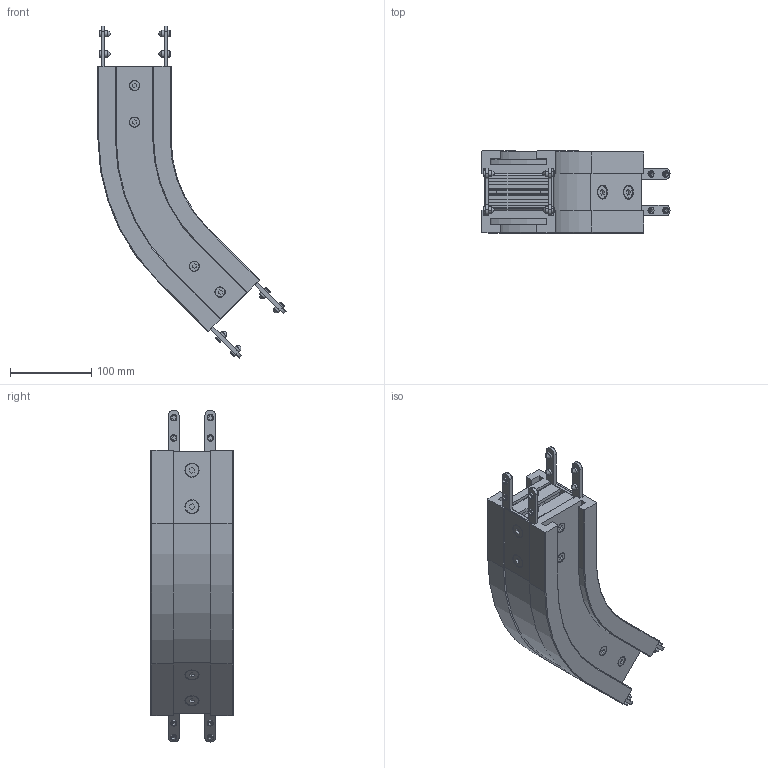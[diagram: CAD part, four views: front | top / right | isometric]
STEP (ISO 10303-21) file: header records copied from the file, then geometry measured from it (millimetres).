
FILE_DESCRIPTION (( 'STEP AP214' ), '1' );
FILE_NAME ('2000.325.445.STEP', '2021-02-11T09:37:42', ( '' ), ( '' ), 'SwSTEP 2.0', 'SolidWorks 2018', '' );
FILE_SCHEMA (( 'AUTOMOTIVE_DESIGN' ));
Length unit declared in the file: millimetre
Products named in the file (10): 084.302.000 DADI ALUSIC 13x13-1_084.302.008; 2000.325.446; 2000.001.402; VITI TSEI UNI 5933 INOX_0620UNI5933A2; 2000.325.445; 2000.325.447; 2000.325.448_2000.1200.490; 2000.325.429_Default<A macchina>; VITI TSEI UNI 5933 INOX_0816UNI5933A2; GRANI A PUNTA CONICA UNI 5927 INOX_M8x14 UNI 5927 INOX
Assembly tree (50 placements, depth 2):
  2000.325.445
    2000.325.448_2000.1200.490  x2
    2000.325.429_Default<A macchina>  x2
    2000.001.402  x4
    2000.325.447
    2000.325.446
    VITI TSEI UNI 5933 INOX_0620UNI5933A2  x8
    VITI TSEI UNI 5933 INOX_0816UNI5933A2  x8
    084.302.000 DADI ALUSIC 13x13-1_084.302.008  x8
    GRANI A PUNTA CONICA UNI 5927 INOX_M8x14 UNI 5927 INOX  x16
Bounding box: 231.41 x 101 x 408.65 mm (x, y, z)
Volume: 1346282.1 mm3; surface area: 539981.4 mm2
Topology: 58 solids, 58 shells, 1438 faces, 3582 edges, 2292 vertices
Faces by surface type: plane 776, cylinder 430, cone 200, torus 32
Entity records: 14214 total; most frequent: CARTESIAN_POINT 2456, DIRECTION 2423, ORIENTED_EDGE 2262, EDGE_CURVE 1131, AXIS2_PLACEMENT_3D 833, VECTOR 757, LINE 757, VERTEX_POINT 734
